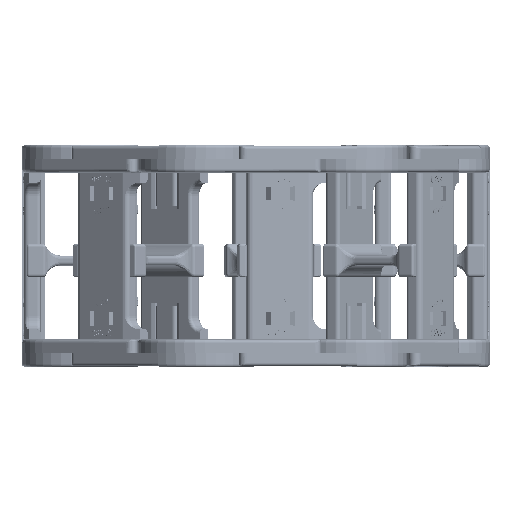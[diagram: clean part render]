
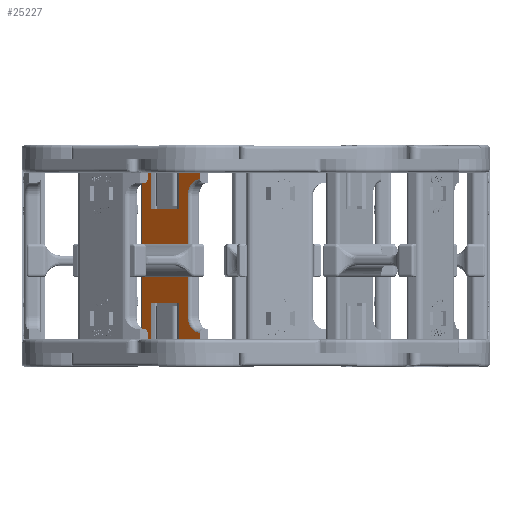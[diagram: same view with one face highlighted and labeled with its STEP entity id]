
A CAD part, left-side view. The second image highlights one B-rep face of the part: STEP entity #25227.
In plain terms, the highlighted planar face has unit normal (-0.755, 0.656, 0) as drawn and (0, -1, 0) by its records, which use the part's own axes.
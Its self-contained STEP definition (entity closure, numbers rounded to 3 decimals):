
#384 = DIRECTION ( 'NONE',  ( 0., 0., -1. ) ) ;
#410 = VERTEX_POINT ( 'NONE', #8258 ) ;
#1320 = DIRECTION ( 'NONE',  ( -1., 0., 0. ) ) ;
#1328 = DIRECTION ( 'NONE',  ( 0., 1., 0. ) ) ;
#1364 = CARTESIAN_POINT ( 'NONE',  ( -14., 0., -14.5 ) ) ;
#1656 = FACE_OUTER_BOUND ( 'NONE', #9701, .T. ) ;
#1711 = DIRECTION ( 'NONE',  ( 0., 0., -1. ) ) ;
#1720 = CARTESIAN_POINT ( 'NONE',  ( 5.693, 0., 28.5 ) ) ;
#1812 = DIRECTION ( 'NONE',  ( 0., 0., 1. ) ) ;
#2255 = CARTESIAN_POINT ( 'NONE',  ( -5.693, 0., -10.5 ) ) ;
#2762 = VERTEX_POINT ( 'NONE', #8042 ) ;
#3312 = ORIENTED_EDGE ( 'NONE', *, *, #26212, .T. ) ;
#3651 = LINE ( 'NONE', #20862, #4197 ) ;
#3833 = VECTOR ( 'NONE', #11237, 1000. ) ;
#4123 = VERTEX_POINT ( 'NONE', #25567 ) ;
#4197 = VECTOR ( 'NONE', #20778, 1000. ) ;
#4224 = LINE ( 'NONE', #11350, #3833 ) ;
#4636 = DIRECTION ( 'NONE',  ( -1., 0., 0. ) ) ;
#4680 = DIRECTION ( 'NONE',  ( 0., 1., 0. ) ) ;
#4716 = CARTESIAN_POINT ( 'NONE',  ( -14., 0., 21.5 ) ) ;
#4911 = CIRCLE ( 'NONE', #35221, 5. ) ;
#4926 = VERTEX_POINT ( 'NONE', #20851 ) ;
#5509 = VECTOR ( 'NONE', #384, 1000. ) ;
#6810 = ORIENTED_EDGE ( 'NONE', *, *, #20726, .F. ) ;
#6832 = CARTESIAN_POINT ( 'NONE',  ( -9., 0., 21.5 ) ) ;
#7297 = VERTEX_POINT ( 'NONE', #19804 ) ;
#7302 = CARTESIAN_POINT ( 'NONE',  ( -9., 0., -14.5 ) ) ;
#7313 = ORIENTED_EDGE ( 'NONE', *, *, #10338, .T. ) ;
#8042 = CARTESIAN_POINT ( 'NONE',  ( -14., 0., 26.5 ) ) ;
#8231 = CARTESIAN_POINT ( 'NONE',  ( -5.5, 0., 17.5 ) ) ;
#8258 = CARTESIAN_POINT ( 'NONE',  ( 9., 0., 28.5 ) ) ;
#8316 = DIRECTION ( 'NONE',  ( 1., 0., 0. ) ) ;
#9315 = EDGE_CURVE ( 'NONE', #23850, #26549, #17547, .T. ) ;
#9701 = EDGE_LOOP ( 'NONE', ( #23495, #29303, #7313, #21537, #18175, #6810, #32130, #18415, #21501, #20555, #16784, #38876, #37820, #3312, #10700, #10847 ) ) ;
#10338 = EDGE_CURVE ( 'NONE', #38347, #12650, #12839, .T. ) ;
#10468 = EDGE_CURVE ( 'NONE', #26549, #16505, #11885, .T. ) ;
#10700 = ORIENTED_EDGE ( 'NONE', *, *, #33186, .T. ) ;
#10847 = ORIENTED_EDGE ( 'NONE', *, *, #13112, .T. ) ;
#10997 = VERTEX_POINT ( 'NONE', #29290 ) ;
#11237 = DIRECTION ( 'NONE',  ( 1., 0., 0. ) ) ;
#11350 = CARTESIAN_POINT ( 'NONE',  ( 14., 0., 28.5 ) ) ;
#11442 = VERTEX_POINT ( 'NONE', #20527 ) ;
#11885 = LINE ( 'NONE', #24245, #11959 ) ;
#11912 = EDGE_CURVE ( 'NONE', #38347, #410, #4224, .T. ) ;
#11959 = VECTOR ( 'NONE', #23913, 1000. ) ;
#12490 = VECTOR ( 'NONE', #1812, 1000. ) ;
#12650 = VERTEX_POINT ( 'NONE', #38732 ) ;
#12811 = VECTOR ( 'NONE', #1711, 1000. ) ;
#12839 = LINE ( 'NONE', #1720, #12811 ) ;
#13112 = EDGE_CURVE ( 'NONE', #7297, #4123, #25022, .T. ) ;
#13369 = CARTESIAN_POINT ( 'NONE',  ( -5.693, 0., -10.5 ) ) ;
#13572 = EDGE_CURVE ( 'NONE', #35309, #30645, #28580, .T. ) ;
#14149 = EDGE_CURVE ( 'NONE', #16505, #15195, #36905, .T. ) ;
#14260 = CARTESIAN_POINT ( 'NONE',  ( -9., 0., 28.5 ) ) ;
#14304 = DIRECTION ( 'NONE',  ( 0., 0., -1. ) ) ;
#15195 = VERTEX_POINT ( 'NONE', #13369 ) ;
#15463 = LINE ( 'NONE', #37659, #5509 ) ;
#15780 = CARTESIAN_POINT ( 'NONE',  ( -14., 0., -21.5 ) ) ;
#16505 = VERTEX_POINT ( 'NONE', #39015 ) ;
#16594 = LINE ( 'NONE', #8231, #19883 ) ;
#16784 = ORIENTED_EDGE ( 'NONE', *, *, #9315, .T. ) ;
#16982 = CARTESIAN_POINT ( 'NONE',  ( -14., 0., -19.5 ) ) ;
#17547 = LINE ( 'NONE', #22420, #17583 ) ;
#17583 = VECTOR ( 'NONE', #22324, 1000. ) ;
#17937 = DIRECTION ( 'NONE',  ( 1., 0., 0. ) ) ;
#18050 = CIRCLE ( 'NONE', #28950, 5. ) ;
#18175 = ORIENTED_EDGE ( 'NONE', *, *, #30118, .T. ) ;
#18415 = ORIENTED_EDGE ( 'NONE', *, *, #28836, .T. ) ;
#18816 = VECTOR ( 'NONE', #14304, 1000. ) ;
#19804 = CARTESIAN_POINT ( 'NONE',  ( 5.693, 0., -21.5 ) ) ;
#19883 = VECTOR ( 'NONE', #8316, 1000. ) ;
#20527 = CARTESIAN_POINT ( 'NONE',  ( -5.693, 0., 28.5 ) ) ;
#20555 = ORIENTED_EDGE ( 'NONE', *, *, #22599, .T. ) ;
#20726 = EDGE_CURVE ( 'NONE', #24362, #11442, #30341, .T. ) ;
#20778 = DIRECTION ( 'NONE',  ( 0., 0., 1. ) ) ;
#20851 = CARTESIAN_POINT ( 'NONE',  ( 5.693, 0., -10.5 ) ) ;
#20862 = CARTESIAN_POINT ( 'NONE',  ( -5.693, 0., 28.5 ) ) ;
#21501 = ORIENTED_EDGE ( 'NONE', *, *, #13572, .T. ) ;
#21537 = ORIENTED_EDGE ( 'NONE', *, *, #32269, .F. ) ;
#21798 = CARTESIAN_POINT ( 'NONE',  ( -14., 0., 28.5 ) ) ;
#21861 = EDGE_CURVE ( 'NONE', #4123, #410, #22524, .T. ) ;
#22026 = VECTOR ( 'NONE', #34982, 1000. ) ;
#22267 = VECTOR ( 'NONE', #23667, 1000. ) ;
#22324 = DIRECTION ( 'NONE',  ( 0., 0., -1. ) ) ;
#22420 = CARTESIAN_POINT ( 'NONE',  ( -14., 0., 35.5 ) ) ;
#22524 = LINE ( 'NONE', #36124, #22026 ) ;
#22599 = EDGE_CURVE ( 'NONE', #30645, #23850, #18050, .T. ) ;
#23495 = ORIENTED_EDGE ( 'NONE', *, *, #21861, .T. ) ;
#23667 = DIRECTION ( 'NONE',  ( 0., 0., -1. ) ) ;
#23679 = CARTESIAN_POINT ( 'NONE',  ( 5.693, 0., -21.5 ) ) ;
#23850 = VERTEX_POINT ( 'NONE', #16982 ) ;
#23913 = DIRECTION ( 'NONE',  ( 1., 0., 0. ) ) ;
#24245 = CARTESIAN_POINT ( 'NONE',  ( 14., 0., -21.5 ) ) ;
#24362 = VERTEX_POINT ( 'NONE', #21798 ) ;
#25022 = LINE ( 'NONE', #26399, #28451 ) ;
#25227 = ADVANCED_FACE ( 'NONE', ( #1656 ), #32404, .F. ) ;
#25567 = CARTESIAN_POINT ( 'NONE',  ( 9., 0., -21.5 ) ) ;
#26212 = EDGE_CURVE ( 'NONE', #15195, #4926, #28822, .T. ) ;
#26368 = DIRECTION ( 'NONE',  ( 1., 0., 0. ) ) ;
#26399 = CARTESIAN_POINT ( 'NONE',  ( 14., 0., -21.5 ) ) ;
#26549 = VERTEX_POINT ( 'NONE', #15780 ) ;
#26707 = CARTESIAN_POINT ( 'NONE',  ( 14., 0., 28.5 ) ) ;
#28451 = VECTOR ( 'NONE', #26368, 1000. ) ;
#28580 = LINE ( 'NONE', #14260, #18816 ) ;
#28750 = VECTOR ( 'NONE', #34599, 1000. ) ;
#28822 = LINE ( 'NONE', #34656, #28750 ) ;
#28836 = EDGE_CURVE ( 'NONE', #2762, #35309, #4911, .T. ) ;
#28950 = AXIS2_PLACEMENT_3D ( 'NONE', #1364, #1328, #1320 ) ;
#29290 = CARTESIAN_POINT ( 'NONE',  ( -5.693, 0., 17.5 ) ) ;
#29303 = ORIENTED_EDGE ( 'NONE', *, *, #11912, .F. ) ;
#29372 = EDGE_CURVE ( 'NONE', #24362, #2762, #15463, .T. ) ;
#29821 = VECTOR ( 'NONE', #17937, 1000. ) ;
#30118 = EDGE_CURVE ( 'NONE', #10997, #11442, #3651, .T. ) ;
#30157 = CARTESIAN_POINT ( 'NONE',  ( 5.693, 0., 28.5 ) ) ;
#30341 = LINE ( 'NONE', #26707, #29821 ) ;
#30645 = VERTEX_POINT ( 'NONE', #7302 ) ;
#32130 = ORIENTED_EDGE ( 'NONE', *, *, #29372, .T. ) ;
#32145 = DIRECTION ( 'NONE',  ( -1., 0., 0. ) ) ;
#32186 = DIRECTION ( 'NONE',  ( 0., 1., 0. ) ) ;
#32269 = EDGE_CURVE ( 'NONE', #10997, #12650, #16594, .T. ) ;
#32404 = PLANE ( 'NONE',  #34215 ) ;
#33186 = EDGE_CURVE ( 'NONE', #4926, #7297, #37957, .T. ) ;
#34097 = CARTESIAN_POINT ( 'NONE',  ( 14., 0., 28.5 ) ) ;
#34215 = AXIS2_PLACEMENT_3D ( 'NONE', #34097, #32186, #32145 ) ;
#34599 = DIRECTION ( 'NONE',  ( 1., 0., 0. ) ) ;
#34656 = CARTESIAN_POINT ( 'NONE',  ( -5.5, 0., -10.5 ) ) ;
#34982 = DIRECTION ( 'NONE',  ( 0., 0., 1. ) ) ;
#35221 = AXIS2_PLACEMENT_3D ( 'NONE', #4716, #4680, #4636 ) ;
#35309 = VERTEX_POINT ( 'NONE', #6832 ) ;
#36124 = CARTESIAN_POINT ( 'NONE',  ( 9., 0., 28.5 ) ) ;
#36905 = LINE ( 'NONE', #2255, #12490 ) ;
#37659 = CARTESIAN_POINT ( 'NONE',  ( -14., 0., 28.5 ) ) ;
#37820 = ORIENTED_EDGE ( 'NONE', *, *, #14149, .T. ) ;
#37957 = LINE ( 'NONE', #23679, #22267 ) ;
#38347 = VERTEX_POINT ( 'NONE', #30157 ) ;
#38732 = CARTESIAN_POINT ( 'NONE',  ( 5.693, 0., 17.5 ) ) ;
#38876 = ORIENTED_EDGE ( 'NONE', *, *, #10468, .T. ) ;
#39015 = CARTESIAN_POINT ( 'NONE',  ( -5.693, 0., -21.5 ) ) ;
